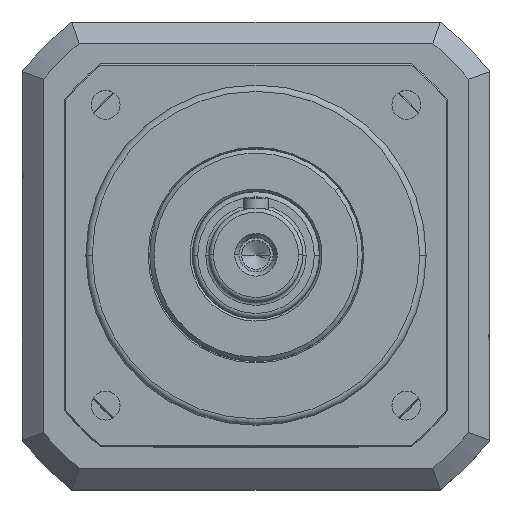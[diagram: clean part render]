
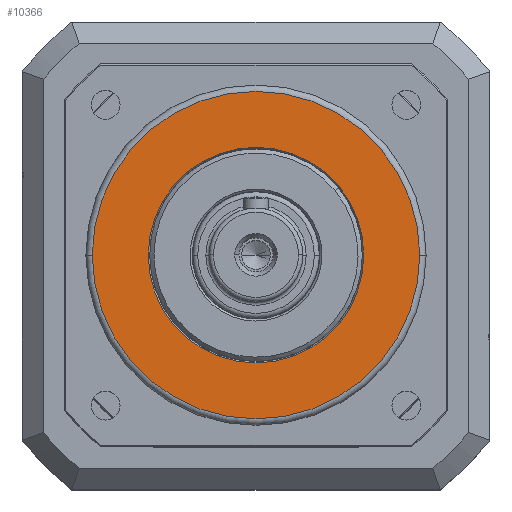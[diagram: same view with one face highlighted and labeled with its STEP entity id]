
A CAD part, top view. The second image highlights one B-rep face of the part: STEP entity #10366.
In plain terms, the highlighted planar face has unit normal (0, 0, 1).
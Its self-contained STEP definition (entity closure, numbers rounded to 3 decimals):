
#892 = EDGE_CURVE ( 'NONE', #10760, #15641, #6212, .T. ) ;
#1579 = DIRECTION ( 'NONE',  ( 1., 0., 0. ) ) ;
#2089 = EDGE_CURVE ( 'NONE', #9809, #2188, #3288, .T. ) ;
#2188 = VERTEX_POINT ( 'NONE', #20128 ) ;
#3143 = EDGE_LOOP ( 'NONE', ( #19264, #3540 ) ) ;
#3212 = EDGE_CURVE ( 'NONE', #2188, #9809, #14221, .T. ) ;
#3288 = CIRCLE ( 'NONE', #10561, 38.5 ) ;
#3445 = DIRECTION ( 'NONE',  ( 0., 0., 1. ) ) ;
#3540 = ORIENTED_EDGE ( 'NONE', *, *, #892, .T. ) ;
#3659 = CARTESIAN_POINT ( 'NONE',  ( -25.35, 0., 10. ) ) ;
#3814 = DIRECTION ( 'NONE',  ( 1., 0., 0. ) ) ;
#3994 = CIRCLE ( 'NONE', #16197, 25.35 ) ;
#4566 = EDGE_LOOP ( 'NONE', ( #18166, #17459 ) ) ;
#4676 = CARTESIAN_POINT ( 'NONE',  ( 0., 0., 10. ) ) ;
#5189 = DIRECTION ( 'NONE',  ( 1., 0., 0. ) ) ;
#5577 = CARTESIAN_POINT ( 'NONE',  ( 0., 0., 10. ) ) ;
#6212 = CIRCLE ( 'NONE', #18092, 25.35 ) ;
#7055 = FACE_BOUND ( 'NONE', #3143, .T. ) ;
#8375 = DIRECTION ( 'NONE',  ( 0., 0., 1. ) ) ;
#8595 = DIRECTION ( 'NONE',  ( 0., 0., 1. ) ) ;
#9552 = CARTESIAN_POINT ( 'NONE',  ( -38.5, 0., 10. ) ) ;
#9809 = VERTEX_POINT ( 'NONE', #9552 ) ;
#9940 = EDGE_CURVE ( 'NONE', #15641, #10760, #3994, .T. ) ;
#10366 = ADVANCED_FACE ( 'NONE', ( #7055, #13426 ), #19516, .T. ) ;
#10561 = AXIS2_PLACEMENT_3D ( 'NONE', #5577, #8375, #3814 ) ;
#10760 = VERTEX_POINT ( 'NONE', #3659 ) ;
#11585 = AXIS2_PLACEMENT_3D ( 'NONE', #14568, #8595, #13107 ) ;
#12731 = CARTESIAN_POINT ( 'NONE',  ( 25.35, 0., 10. ) ) ;
#13107 = DIRECTION ( 'NONE',  ( 1., 0., 0. ) ) ;
#13129 = DIRECTION ( 'NONE',  ( 0., 0., -1. ) ) ;
#13426 = FACE_OUTER_BOUND ( 'NONE', #4566, .T. ) ;
#14221 = CIRCLE ( 'NONE', #18154, 38.5 ) ;
#14568 = CARTESIAN_POINT ( 'NONE',  ( 0., 0., 10. ) ) ;
#15641 = VERTEX_POINT ( 'NONE', #12731 ) ;
#15730 = DIRECTION ( 'NONE',  ( 0., 0., -1. ) ) ;
#16197 = AXIS2_PLACEMENT_3D ( 'NONE', #18082, #13129, #16351 ) ;
#16351 = DIRECTION ( 'NONE',  ( 1., 0., 0. ) ) ;
#17459 = ORIENTED_EDGE ( 'NONE', *, *, #2089, .T. ) ;
#18082 = CARTESIAN_POINT ( 'NONE',  ( 0., 0., 10. ) ) ;
#18092 = AXIS2_PLACEMENT_3D ( 'NONE', #4676, #15730, #1579 ) ;
#18154 = AXIS2_PLACEMENT_3D ( 'NONE', #19317, #3445, #5189 ) ;
#18166 = ORIENTED_EDGE ( 'NONE', *, *, #3212, .T. ) ;
#19264 = ORIENTED_EDGE ( 'NONE', *, *, #9940, .T. ) ;
#19317 = CARTESIAN_POINT ( 'NONE',  ( 0., 0., 10. ) ) ;
#19516 = PLANE ( 'NONE',  #11585 ) ;
#20128 = CARTESIAN_POINT ( 'NONE',  ( 38.5, 0., 10. ) ) ;
